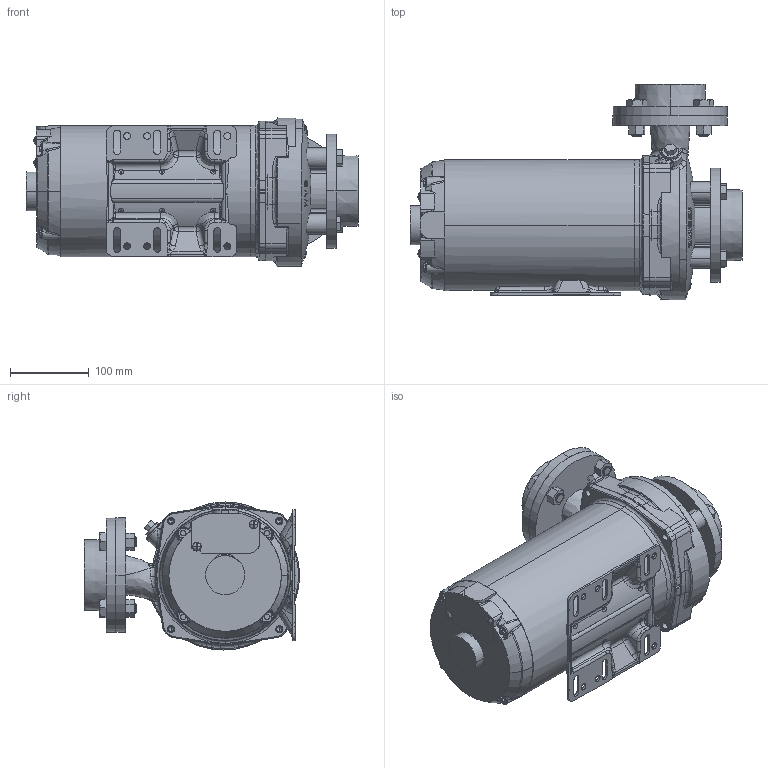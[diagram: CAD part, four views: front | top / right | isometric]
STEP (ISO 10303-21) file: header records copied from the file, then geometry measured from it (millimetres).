
FILE_DESCRIPTION (( 'STEP AP214' ), '1' );
FILE_NAME ('BOMBA CAM-W16 3 CV T 220_380V INC FLG IR3.STEP', '2026-06-08T13:21:17', ( '' ), ( '' ), 'SwSTEP 2.0', 'SolidWorks 2025', '' );
FILE_SCHEMA (( 'AUTOMOTIVE_DESIGN' ));
Length unit declared in the file: millimetre
Products named in the file (10): 14801095 - MOTOR WEG IP21 ST JJ 3,0CV T 220-380V 2P 60HZ FC165FF E56 IR3; PARAFUSO SEXTAVADO UNC 1-2'''' X 1'''' ACO INOX AISI 304 - 60700620; FLANGE 2.1-2'''' CAM-W16 - 60550141_60550141 para CAM W16; PORCA SEXTAVADA UNC 1-2'''' CH-3-4'''' A_O 1020 SALT SPRAY 96h - 60700042; BOMBA CAM-W16 3 CV T 220_380V INC FLG IR3; PLUG DE ESCORVA LATÃO 3-8'''' - 60550166; PLUG DE ESCORVA LATÃO 3-8'''' COM ARRUELA - 60550217; ARRUELA PLUG DE ESCORVA - 60550167; CARCA_A CAM-16 FLANGEADO  - 60350070; PARAFUSO SEXTAVADO UNC 1-2'''' x 1'''' SALT SPRAY 96h - 60700041
Assembly tree (19 placements, depth 3):
  BOMBA CAM-W16 3 CV T 220_380V INC FLG IR3
    14801095 - MOTOR WEG IP21 ST JJ 3,0CV T 220-380V 2P 60HZ FC165FF E56 IR3
    CARCA_A CAM-16 FLANGEADO  - 60350070
    FLANGE 2.1-2'''' CAM-W16 - 60550141_60550141 para CAM W16  x2
    PARAFUSO SEXTAVADO UNC 1-2'''' x 1'''' SALT SPRAY 96h - 60700041  x4
    PARAFUSO SEXTAVADO UNC 1-2'''' X 1'''' ACO INOX AISI 304 - 60700620  x4
    PLUG DE ESCORVA LATÃO 3-8'''' COM ARRUELA - 60550217
      PLUG DE ESCORVA LATÃO 3-8'''' - 60550166
      ARRUELA PLUG DE ESCORVA - 60550167
    PORCA SEXTAVADA UNC 1-2'''' CH-3-4'''' A_O 1020 SALT SPRAY 96h - 60700042  x4
Bounding box: 420.65 x 272.49 x 187.54 mm (x, y, z)
Volume: 8284209.3 mm3; surface area: 603367.1 mm2
Topology: 18 solids, 27 shells, 1938 faces, 4946 edges, 3089 vertices
Faces by surface type: plane 692, bspline 466, cylinder 436, cone 176, torus 131, sphere 37
Entity records: 75418 total; most frequent: CARTESIAN_POINT 36758, ORIENTED_EDGE 9030, DIRECTION 6695, EDGE_CURVE 4515, VERTEX_POINT 2843, AXIS2_PLACEMENT_3D 2733, EDGE_LOOP 1890, ADVANCED_FACE 1762
